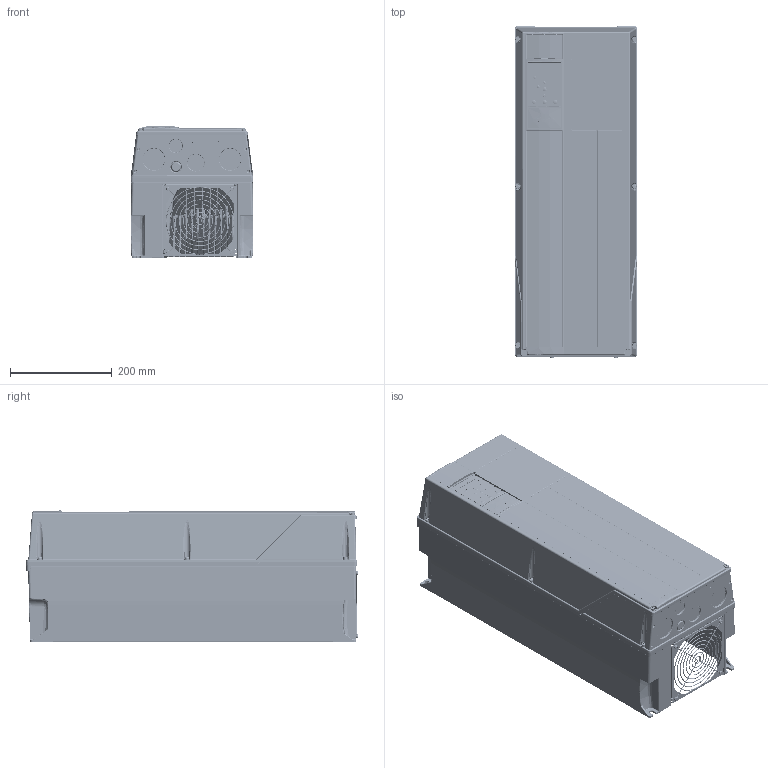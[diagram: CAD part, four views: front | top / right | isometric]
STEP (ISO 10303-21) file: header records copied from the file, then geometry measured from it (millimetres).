
FILE_DESCRIPTION((''),'2;1');
FILE_NAME('I6','2011-09-19T',('cstephenkumar'),('Be-Atch INC. 1993'),'PRO/ENGINEER BY PARAMETRIC TECHNOLOGY CORPORATION, 2009360','PRO/ENGINEER BY PARAMETRIC TECHNOLOGY CORPORATION, 2009360','');
FILE_SCHEMA(('AUTOMOTIVE_DESIGN { 1 0 10303 214 1 1 1 1 }'));
Products named in the file (1): I6
Bounding box: 242 x 653.31 x 260.7 mm (x, y, z)
Volume: 25890121.5 mm3; surface area: 2536764.5 mm2
Topology: 1 solids, 15 shells, 6803 faces, 16836 edges, 10100 vertices
Faces by surface type: cylinder 2476, plane 1910, bspline 1568, torus 349, extrusion 196, cone 176, sphere 128
Entity records: 318450 total; most frequent: CARTESIAN_POINT 170275, ORIENTED_EDGE 33514, DIRECTION 26186, EDGE_CURVE 16757, VERTEX_POINT 10100, AXIS2_PLACEMENT_3D 9309, VECTOR 7568, LINE 7372
